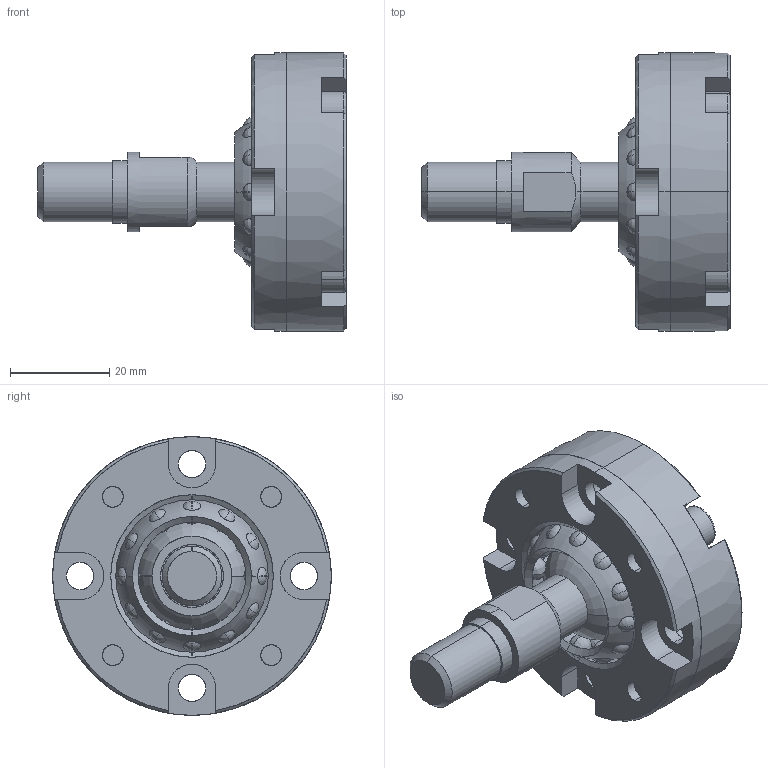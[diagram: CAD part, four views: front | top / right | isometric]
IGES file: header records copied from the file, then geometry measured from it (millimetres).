
Start section: SolidWorks IGES file using analytic representation for surfaces
Global section: file name: C:\Users\render\Documents\CAD Files\SRJ\SRJ016C\SR JOINT - SRJ016C.IGS; native system: SolidWorks 2009; preprocessor: SolidWorks 2009; author: render; date: 100601.154440; units: millimetre
Bounding box: 62 x 56 x 56 mm (x, y, z)
Surface area: 24377.8 mm2 (no closed solid volume)
Topology: 0 solids, 0 shells, 419 faces, 10197 edges, 10092 vertices
Faces by surface type: revolution 308, bspline 111
